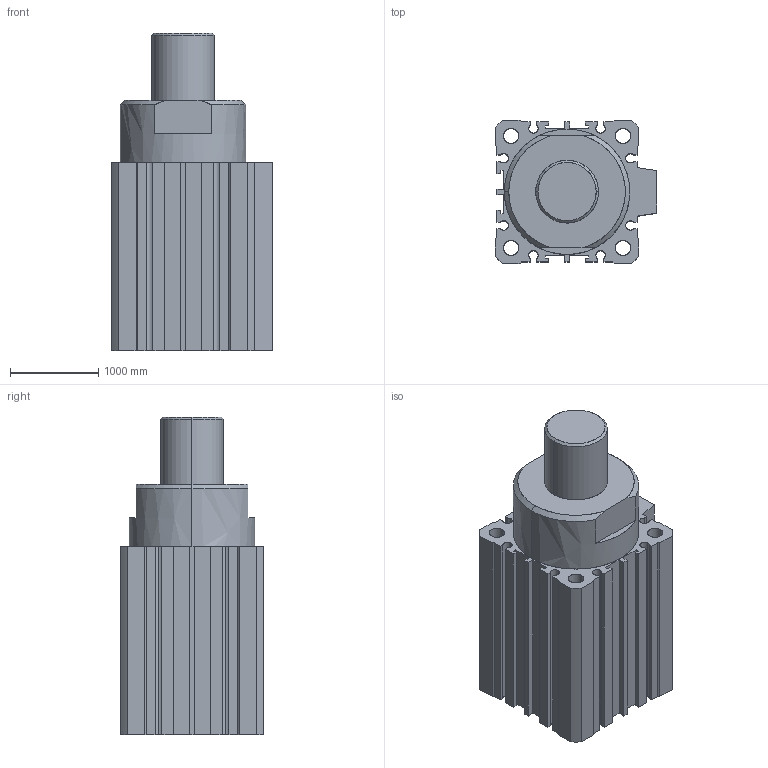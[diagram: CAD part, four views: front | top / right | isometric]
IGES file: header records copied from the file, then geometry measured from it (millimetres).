
Start section: SolidWorks IGES file using analytic representation for surfaces
Global section: file name: C:\Documents and Settings\Standard\Bureau\NM pieces 3d\ELO 50 30 tige entrée.IGS; native system: SolidWorks 2007; preprocessor: SolidWorks 2007; author: Standard; date: 080328.112953; units: inch
Bounding box: 1828.8 x 1625.6 x 3606.8 mm (x, y, z)
Surface area: 45061578.8 mm2 (no closed solid volume)
Topology: 0 solids, 0 shells, 568 faces, 12183 edges, 12223 vertices
Faces by surface type: bspline 513, revolution 55
